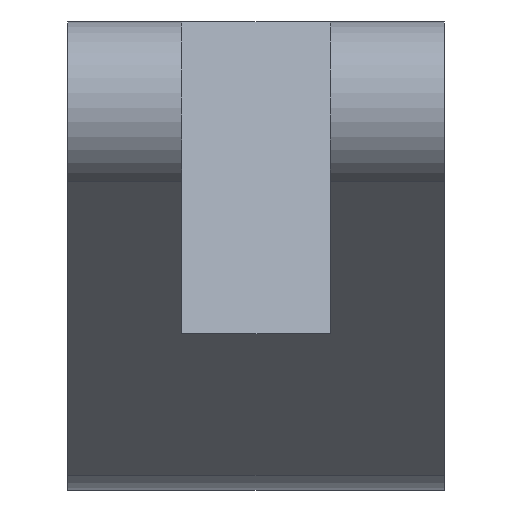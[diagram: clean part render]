
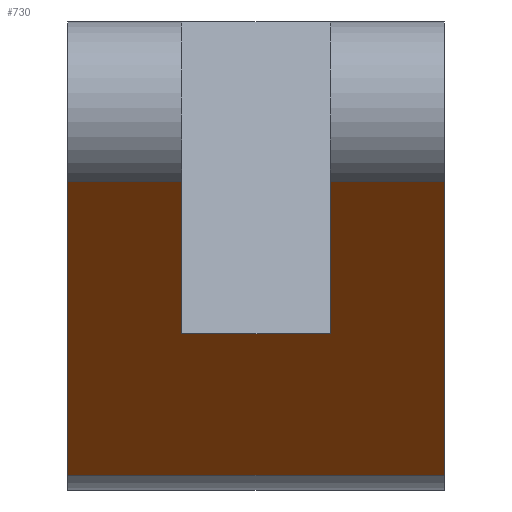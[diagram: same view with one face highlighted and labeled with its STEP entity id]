
A CAD part, left-side view. The second image highlights one B-rep face of the part: STEP entity #730.
In plain terms, the highlighted planar face has unit normal (-0.5, 0, -0.866).
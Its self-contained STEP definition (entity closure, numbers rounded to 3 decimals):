
#47=DIRECTION('',(-0.866,0.,0.5));
#48=VECTOR('',#47,51.46);
#49=CARTESIAN_POINT('',(48.316,-16.5,-39.725));
#50=LINE('',#49,#48);
#190=DIRECTION('',(0.,1.,0.));
#191=VECTOR('',#190,10.);
#192=CARTESIAN_POINT('',(3.75,-16.5,-13.995));
#193=LINE('',#192,#191);
#205=DIRECTION('',(0.,1.,0.));
#206=VECTOR('',#205,10.);
#207=CARTESIAN_POINT('',(3.75,6.5,-13.995));
#208=LINE('',#207,#206);
#212=DIRECTION('',(0.866,0.,-0.5));
#213=VECTOR('',#212,26.649);
#214=CARTESIAN_POINT('',(3.75,-6.5,-13.995));
#215=LINE('',#214,#213);
#219=DIRECTION('',(0.,1.,0.));
#220=VECTOR('',#219,33.);
#221=CARTESIAN_POINT('',(48.316,-16.5,-39.725));
#222=LINE('',#221,#220);
#226=DIRECTION('',(0.866,0.,-0.5));
#227=VECTOR('',#226,26.649);
#228=CARTESIAN_POINT('',(3.75,6.5,-13.995));
#229=LINE('',#228,#227);
#233=DIRECTION('',(0.,1.,0.));
#234=VECTOR('',#233,13.);
#235=CARTESIAN_POINT('',(26.829,-6.5,-27.32));
#236=LINE('',#235,#234);
#276=DIRECTION('',(-0.866,0.,0.5));
#277=VECTOR('',#276,51.46);
#278=CARTESIAN_POINT('',(48.316,16.5,-39.725));
#279=LINE('',#278,#277);
#515=CARTESIAN_POINT('',(48.316,-16.5,-39.725));
#516=VERTEX_POINT('',#515);
#517=CARTESIAN_POINT('',(3.75,-16.5,-13.995));
#518=VERTEX_POINT('',#517);
#527=CARTESIAN_POINT('',(48.316,16.5,-39.725));
#528=VERTEX_POINT('',#527);
#529=CARTESIAN_POINT('',(3.75,16.5,-13.995));
#530=VERTEX_POINT('',#529);
#547=CARTESIAN_POINT('',(3.75,-6.5,-13.995));
#548=CARTESIAN_POINT('',(26.829,-6.5,-27.32));
#549=VERTEX_POINT('',#547);
#550=VERTEX_POINT('',#548);
#551=CARTESIAN_POINT('',(3.75,6.5,-13.995));
#552=CARTESIAN_POINT('',(26.829,6.5,-27.32));
#553=VERTEX_POINT('',#551);
#554=VERTEX_POINT('',#552);
#711=CARTESIAN_POINT('',(48.316,-16.5,-39.725));
#712=DIRECTION('',(-0.5,0.,-0.866));
#713=DIRECTION('',(-0.866,0.,0.5));
#714=AXIS2_PLACEMENT_3D('',#711,#712,#713);
#715=PLANE('',#714);
#716=ORIENTED_EDGE('',*,*,#670,.F.);
#717=ORIENTED_EDGE('',*,*,#691,.F.);
#718=ORIENTED_EDGE('',*,*,#608,.F.);
#720=ORIENTED_EDGE('',*,*,#719,.T.);
#722=ORIENTED_EDGE('',*,*,#721,.T.);
#723=ORIENTED_EDGE('',*,*,#703,.F.);
#725=ORIENTED_EDGE('',*,*,#724,.T.);
#727=ORIENTED_EDGE('',*,*,#726,.F.);
#728=EDGE_LOOP('',(#716,#717,#718,#720,#722,#723,#725,#727));
#729=FACE_OUTER_BOUND('',#728,.F.);
#608=EDGE_CURVE('',#516,#518,#50,.T.);
#670=EDGE_CURVE('',#549,#550,#215,.T.);
#691=EDGE_CURVE('',#518,#549,#193,.T.);
#703=EDGE_CURVE('',#553,#530,#208,.T.);
#719=EDGE_CURVE('',#516,#528,#222,.T.);
#721=EDGE_CURVE('',#528,#530,#279,.T.);
#724=EDGE_CURVE('',#553,#554,#229,.T.);
#726=EDGE_CURVE('',#550,#554,#236,.T.);
#730=ADVANCED_FACE('',(#729),#715,.T.);
